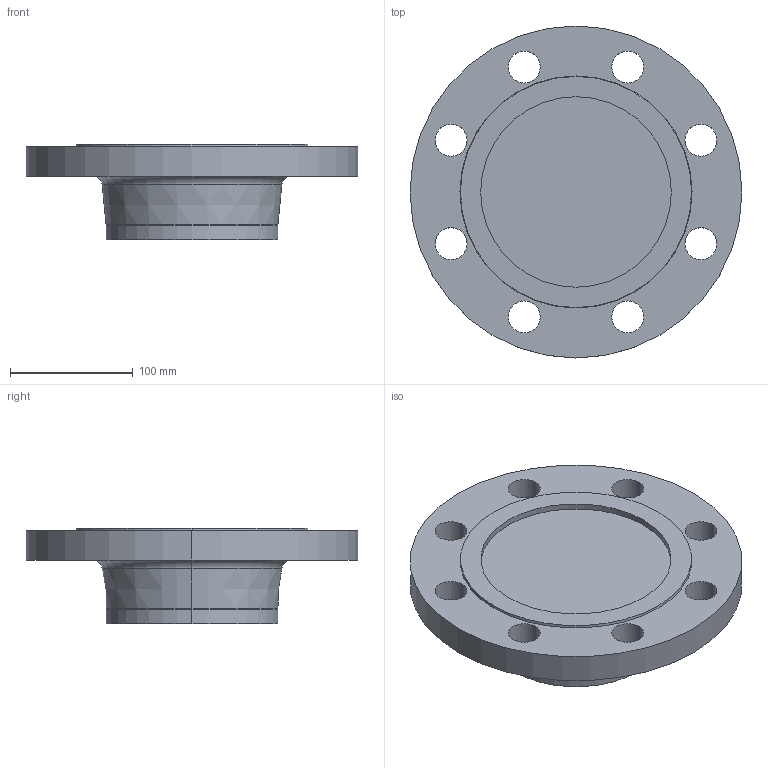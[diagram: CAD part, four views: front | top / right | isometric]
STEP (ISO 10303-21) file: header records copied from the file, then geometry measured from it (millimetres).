
FILE_DESCRIPTION (( 'STEP AP214' ), '1' );
FILE_NAME ('PN40 DN125 Type 21(ii) - Type G Face.STEP', '2019-01-02T00:58:38', ( '' ), ( '' ), 'SwSTEP 2.0', 'SolidWorks 2019', '' );
FILE_SCHEMA (( 'AUTOMOTIVE_DESIGN' ));
Length unit declared in the file: millimetre
Products named in the file (1): PN40 DN125 Type 21(ii) - Type G Face
Bounding box: 270 x 270 x 78 mm (x, y, z)
Volume: 2070285.7 mm3; surface area: 165882.7 mm2
Topology: 1 solids, 1 shells, 35 faces, 84 edges, 54 vertices
Faces by surface type: cylinder 22, plane 5, torus 4, cone 4
Entity records: 1114 total; most frequent: DIRECTION 214, CARTESIAN_POINT 174, ORIENTED_EDGE 168, AXIS2_PLACEMENT_3D 94, EDGE_CURVE 84, CIRCLE 58, VERTEX_POINT 54, EDGE_LOOP 54
